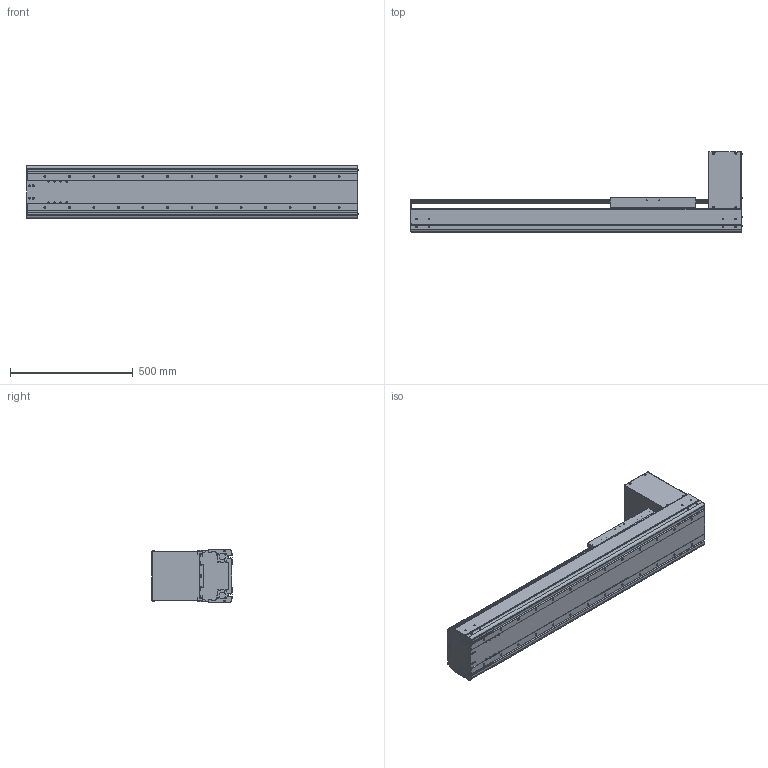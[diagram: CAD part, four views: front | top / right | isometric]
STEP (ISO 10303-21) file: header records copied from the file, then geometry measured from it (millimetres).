
FILE_DESCRIPTION((''),'2;1');
FILE_NAME('BE60J-BT-L19N-75_IGS_PRT','2017-06-18T',(' '),(''),'PRO/ENGINEER BY PARAMETRIC TECHNOLOGY CORPORATION, 2015030','PRO/ENGINEER BY PARAMETRIC TECHNOLOGY CORPORATION, 2015030','');
FILE_SCHEMA(('CONFIG_CONTROL_DESIGN'));
Products named in the file (1): BE60J-BT-L19N-75_IGS_PRT
Bounding box: 1354.4 x 327.5 x 214 mm (x, y, z)
Volume: 9961928.6 mm3; surface area: 3224609.2 mm2
Topology: 1 solids, 211 shells, 1998 faces, 5546 edges, 3675 vertices
Faces by surface type: cylinder 932, plane 804, cone 166, torus 48, sphere 48
Entity records: 65916 total; most frequent: CARTESIAN_POINT 14682, DIRECTION 10793, ORIENTED_EDGE 10072, EDGE_CURVE 5416, AXIS2_PLACEMENT_3D 4027, VERTEX_POINT 3668, VECTOR 2739, LINE 2739
